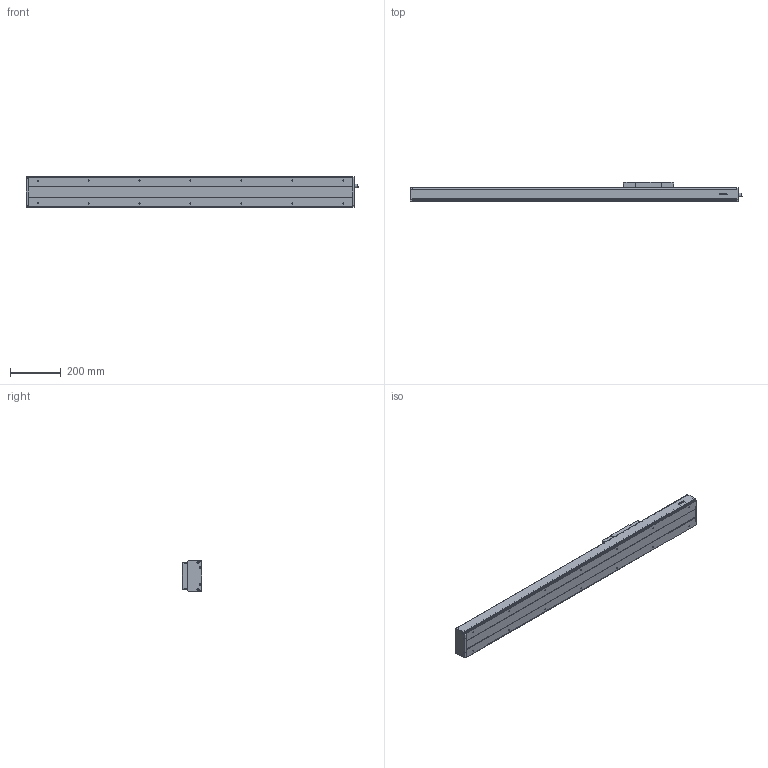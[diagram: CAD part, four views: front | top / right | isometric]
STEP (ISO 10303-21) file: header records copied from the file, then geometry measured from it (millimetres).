
FILE_DESCRIPTION(/* description */ (''),/* implementation_level */ '2;1');
FILE_NAME(/* name */ 'D:\混合母檔20191031\混和母檔\混和母檔\bin\Debug\Download\3D\KS120-5C-800AFI\KS120-5C-800AFI.stp',/* time_stamp */ '2019-11-04T15:04:36+08:00',/* author */ ('user'),/* organization */ (''),/* preprocessor_version */ 'ST-DEVELOPER v16.13',/* originating_system */ 'Autodesk Inventor 2018',/* authorisation */ '');
FILE_SCHEMA (('AUTOMOTIVE_DESIGN { 1 0 10303 214 3 1 1 }'));
Length unit declared in the file: millimetre
Products named in the file (3): KS120-5C-800AFI; KS120-FI; KS120-SL
Assembly tree (2 placements, depth 2):
  KS120-5C-800AFI
    KS120-FI
    KS120-SL
Bounding box: 1304.5 x 77 x 120 mm (x, y, z)
Volume: 3048909.8 mm3; surface area: 1014912.9 mm2
Topology: 4 solids, 11 shells, 1003 faces, 2579 edges, 1664 vertices
Faces by surface type: plane 575, cylinder 190, bspline 136, cone 84, torus 14, sphere 4
Full cylindrical faces by diameter (mm): 2.459 x6, 3.242 x4, 4 x32, 4.3 x4, 4.5 x12, 4.917 x12, 6 x6, 7 x4, 8 x9, 8.4 x12, 10.437 x1, 12 x2, 14 x1, 15 x1, 15.538 x1, 19 x1, 28 x1, 30 x1
Entity records: 33257 total; most frequent: CARTESIAN_POINT 10696, ORIENTED_EDGE 4590, DIRECTION 4205, EDGE_CURVE 2293, VERTEX_POINT 1578, LINE 1537, VECTOR 1537, AXIS2_PLACEMENT_3D 1334
